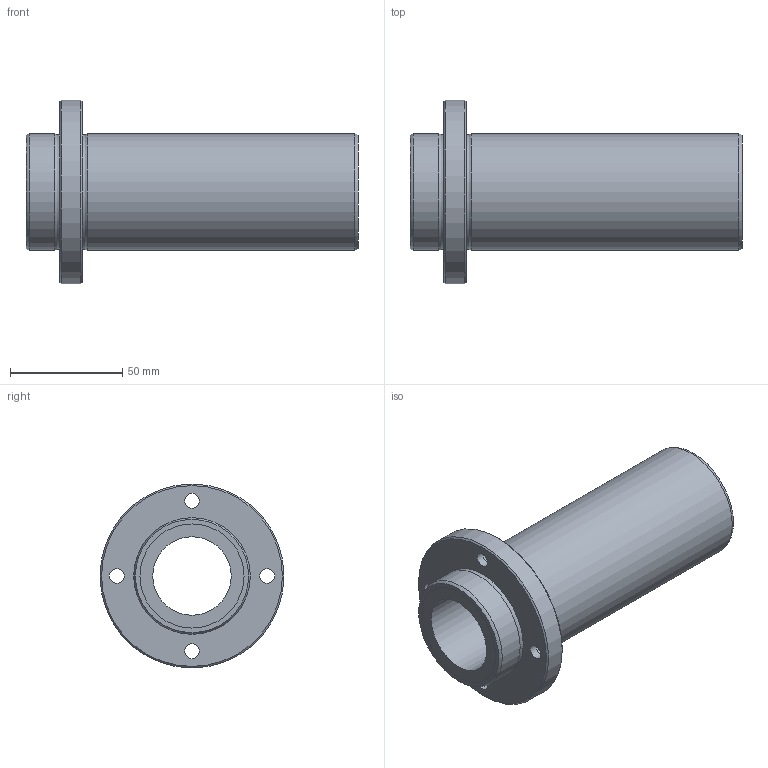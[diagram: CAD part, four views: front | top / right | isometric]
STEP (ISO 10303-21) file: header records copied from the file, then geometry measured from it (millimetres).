
FILE_DESCRIPTION((''),'2;1');
FILE_NAME('C:\Documents and Settings\土屋\My Documents\土屋移動用フォルダ\製品 (図面)\カタログ用3D\変換ファイル\OZAK_3D-CAD(STEP形式)\Part1.-Linear Bearings_ﾘﾆｱﾍﾞｱﾘﾝｸﾞ\09_Maintenance Free_ﾒｲﾝﾃﾅﾝｽﾌﾘｰ\L2017-09-21T14:25:56','2017-09-21T14:25:56',('y'),(''),'Autodesk Inventor 11','Autodesk Inventor 11','');
FILE_SCHEMA(('AUTOMOTIVE_DESIGN { 1 0 10303 214 1 1 1 1 }'));
Length unit declared in the file: millimetre
Products named in the file (1): LFDB-MF
Bounding box: 148 x 82 x 82 mm (x, y, z)
Volume: 199843.4 mm3; surface area: 50687 mm2
Topology: 1 solids, 1 shells, 30 faces, 54 edges, 34 vertices
Faces by surface type: bspline 14, cylinder 6, plane 6, cone 2, torus 2
Full cylindrical faces by diameter (mm): 35 x1, 46.4 x2, 52 x2, 82 x1
Entity records: 907 total; most frequent: CARTESIAN_POINT 371, DIRECTION 102, ORIENTED_EDGE 68, EDGE_LOOP 68, AXIS2_PLACEMENT_3D 51, FACE_BOUND 38, VERTEX_POINT 34, CIRCLE 34
